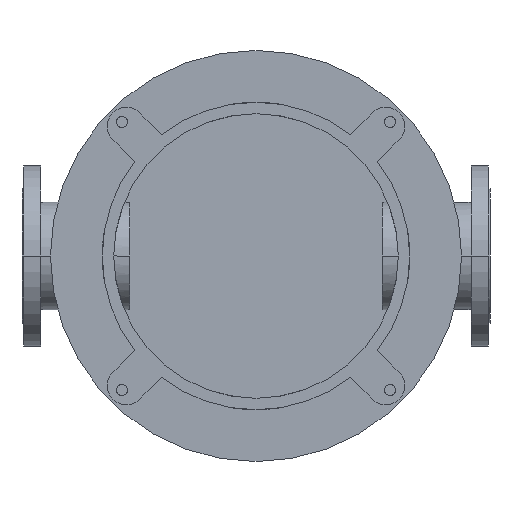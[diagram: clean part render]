
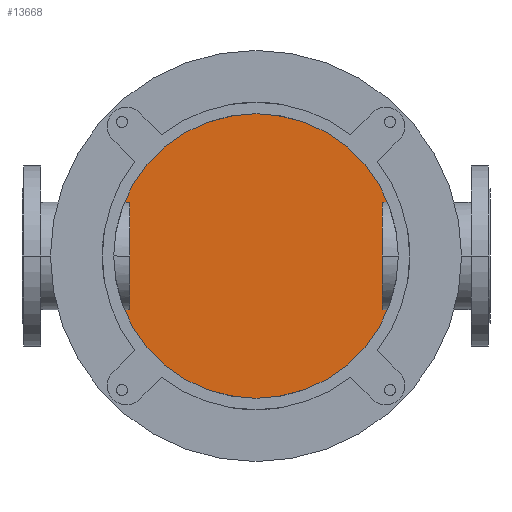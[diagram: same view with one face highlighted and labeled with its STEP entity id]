
A CAD part, front view. The second image highlights one B-rep face of the part: STEP entity #13668.
In plain terms, the highlighted planar face has unit normal (0, -1, 0).
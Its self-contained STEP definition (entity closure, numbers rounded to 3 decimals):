
#3271=CARTESIAN_POINT('',(0.,668.,0.));
#3272=DIRECTION('',(0.,-1.,0.));
#3273=DIRECTION('',(0.,0.,1.));
#3274=AXIS2_PLACEMENT_3D('',#3271,#3272,#3273);
#3398=CARTESIAN_POINT('',(0.,668.,0.));
#3399=DIRECTION('',(0.,-1.,0.));
#3400=DIRECTION('',(0.,0.,-1.));
#3401=AXIS2_PLACEMENT_3D('',#3398,#3399,#3400);
#8604=CARTESIAN_POINT('',(0.,668.,240.));
#8605=CARTESIAN_POINT('',(0.,668.,-240.));
#8606=VERTEX_POINT('',#8604);
#8607=VERTEX_POINT('',#8605);
#13658=CARTESIAN_POINT('',(0.,668.,0.));
#13659=DIRECTION('',(0.,1.,0.));
#13660=DIRECTION('',(0.,0.,-1.));
#13661=AXIS2_PLACEMENT_3D('',#13658,#13659,#13660);
#13662=PLANE('',#13661);
#13663=ORIENTED_EDGE('',*,*,#13642,.F.);
#13665=ORIENTED_EDGE('',*,*,#13664,.F.);
#13666=EDGE_LOOP('',(#13663,#13665));
#13667=FACE_OUTER_BOUND('',#13666,.F.);
#13668=ADVANCED_FACE('',(#13667),#13662,.F.);
#3275=CIRCLE('',#3274,240.);
#3402=CIRCLE('',#3401,240.);
#13642=EDGE_CURVE('',#8606,#8607,#3275,.T.);
#13664=EDGE_CURVE('',#8607,#8606,#3402,.T.);
